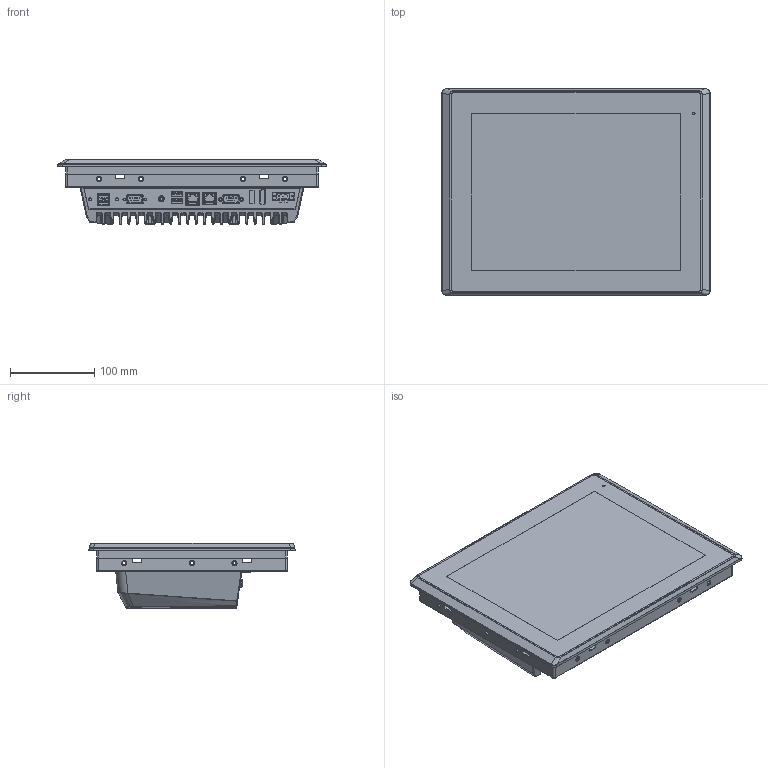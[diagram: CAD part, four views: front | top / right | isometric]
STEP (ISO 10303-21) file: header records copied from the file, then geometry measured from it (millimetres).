
FILE_DESCRIPTION (( 'STEP AP214' ), '1' );
FILE_NAME ('OMI6812C.STEP', '2025-06-23T18:15:29', ( '' ), ( '' ), 'SwSTEP 2.0', 'SolidWorks 2019', '' );
FILE_SCHEMA (( 'AUTOMOTIVE_DESIGN' ));
Length unit declared in the file: inch
Products named in the file (1): OMI6812C
Bounding box: 319 x 245 x 77.36 mm (x, y, z)
Surface area: 453481.6 mm2 (no closed solid volume)
Topology: 0 solids, 39 shells, 1722 faces, 6439 edges, 4559 vertices
Faces by surface type: cylinder 743, plane 537, bspline 360, cone 70, torus 12
Entity records: 124451 total; most frequent: CARTESIAN_POINT 56109, ORIENTED_EDGE 9818, DIRECTION 6775, EDGE_CURVE 6411, VERTEX_POINT 4559, LINE 2879, VECTOR 2879, B_SPLINE_CURVE_WITH_KNOTS 2863
